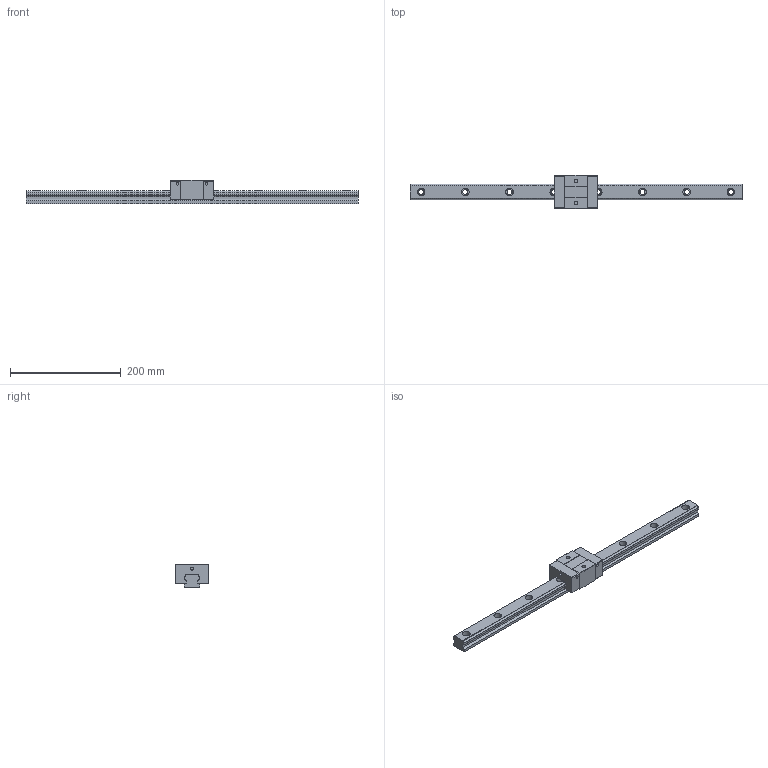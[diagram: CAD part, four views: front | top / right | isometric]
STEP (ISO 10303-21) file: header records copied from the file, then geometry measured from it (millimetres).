
FILE_DESCRIPTION (( 'STEP AP203' ), '1' );
FILE_NAME ('TRS30VS-WW.STEP', '2024-05-23T08:53:11', ( '' ), ( '' ), 'SwSTEP 2.0', 'SolidWorks 2022', '' );
FILE_SCHEMA (( 'CONFIG_CONTROL_DESIGN' ));
Length unit declared in the file: millimetre
Products named in the file (1): TRS30VS-WW
Bounding box: 600 x 60 x 42 mm (x, y, z)
Volume: 452353.6 mm3; surface area: 91859.3 mm2
Topology: 2 solids, 2 shells, 172 faces, 452 edges, 300 vertices
Faces by surface type: plane 88, cylinder 84
Entity records: 5459 total; most frequent: DIRECTION 966, CARTESIAN_POINT 925, ORIENTED_EDGE 904, EDGE_CURVE 452, AXIS2_PLACEMENT_3D 341, VERTEX_POINT 300, LINE 284, VECTOR 284
